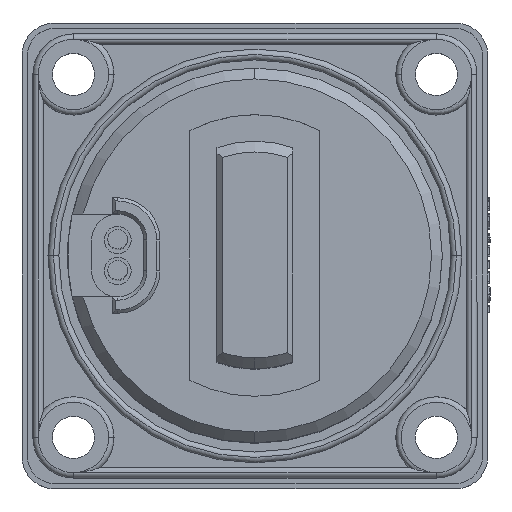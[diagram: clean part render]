
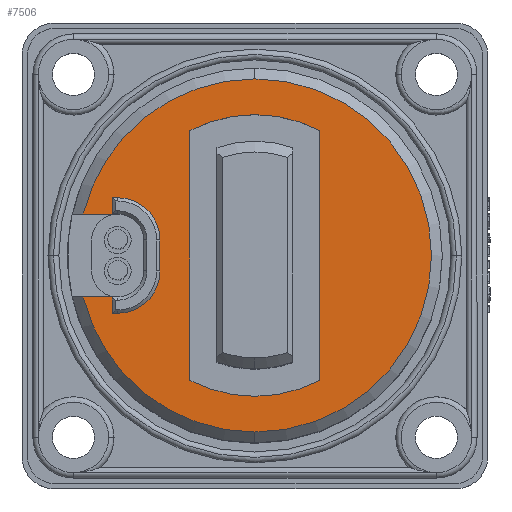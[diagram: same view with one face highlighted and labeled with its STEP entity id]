
A CAD part, top view. The second image highlights one B-rep face of the part: STEP entity #7506.
In plain terms, the highlighted planar face has unit normal (0, 0, 1).
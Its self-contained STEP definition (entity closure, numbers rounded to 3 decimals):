
#77 = VECTOR ( 'NONE', #9780, 1000. ) ;
#395 = LINE ( 'NONE', #5610, #1173 ) ;
#604 = CIRCLE ( 'NONE', #18663, 16.3 ) ;
#678 = AXIS2_PLACEMENT_3D ( 'NONE', #22096, #26998, #24616 ) ;
#744 = ORIENTED_EDGE ( 'NONE', *, *, #27256, .F. ) ;
#803 = VERTEX_POINT ( 'NONE', #21897 ) ;
#1005 = ORIENTED_EDGE ( 'NONE', *, *, #20629, .F. ) ;
#1045 = CARTESIAN_POINT ( 'NONE',  ( -6., -11.533, 28.5 ) ) ;
#1048 = VERTEX_POINT ( 'NONE', #28183 ) ;
#1173 = VECTOR ( 'NONE', #30520, 1000. ) ;
#2084 = DIRECTION ( 'NONE',  ( 0., 0., 1. ) ) ;
#2274 = CARTESIAN_POINT ( 'NONE',  ( -13.166, 3.829, 28.5 ) ) ;
#3578 = LINE ( 'NONE', #7272, #77 ) ;
#3926 = AXIS2_PLACEMENT_3D ( 'NONE', #26037, #11145, #5924 ) ;
#3991 = ORIENTED_EDGE ( 'NONE', *, *, #22801, .T. ) ;
#4023 = VECTOR ( 'NONE', #5887, 1000. ) ;
#4102 = VERTEX_POINT ( 'NONE', #22174 ) ;
#4359 = AXIS2_PLACEMENT_3D ( 'NONE', #19273, #2084, #27018 ) ;
#4570 = CIRCLE ( 'NONE', #13012, 13. ) ;
#4643 = ORIENTED_EDGE ( 'NONE', *, *, #23790, .F. ) ;
#5610 = CARTESIAN_POINT ( 'NONE',  ( 6., 11.533, 28.5 ) ) ;
#5874 = LINE ( 'NONE', #16425, #26105 ) ;
#5887 = DIRECTION ( 'NONE',  ( 1., 0., 0. ) ) ;
#5924 = DIRECTION ( 'NONE',  ( 0., -1., 0. ) ) ;
#6036 = ORIENTED_EDGE ( 'NONE', *, *, #23842, .F. ) ;
#6185 = CARTESIAN_POINT ( 'NONE',  ( -8.766, 1.429, 28.5 ) ) ;
#7163 = CARTESIAN_POINT ( 'NONE',  ( 0., 0., 28.5 ) ) ;
#7272 = CARTESIAN_POINT ( 'NONE',  ( -13.166, -3.829, 28.5 ) ) ;
#7409 = CARTESIAN_POINT ( 'NONE',  ( 0., 0., 28.5 ) ) ;
#7506 = ADVANCED_FACE ( 'NONE', ( #9081, #13740 ), #13123, .F. ) ;
#7600 = CARTESIAN_POINT ( 'NONE',  ( -13.166, 5.329, 28.5 ) ) ;
#7853 = CIRCLE ( 'NONE', #25863, 16.3 ) ;
#7907 = VERTEX_POINT ( 'NONE', #17890 ) ;
#7920 = DIRECTION ( 'NONE',  ( 0., 0., -1. ) ) ;
#7964 = ORIENTED_EDGE ( 'NONE', *, *, #30918, .F. ) ;
#7971 = EDGE_CURVE ( 'NONE', #11931, #23045, #395, .T. ) ;
#8131 = CARTESIAN_POINT ( 'NONE',  ( -12.666, 1.429, 28.5 ) ) ;
#8232 = ORIENTED_EDGE ( 'NONE', *, *, #16695, .F. ) ;
#8597 = EDGE_LOOP ( 'NONE', ( #18709, #744, #25769, #8232, #9136 ) ) ;
#8666 = VERTEX_POINT ( 'NONE', #28529 ) ;
#8919 = ORIENTED_EDGE ( 'NONE', *, *, #11975, .F. ) ;
#9081 = FACE_BOUND ( 'NONE', #8597, .T. ) ;
#9136 = ORIENTED_EDGE ( 'NONE', *, *, #27998, .F. ) ;
#9585 = CARTESIAN_POINT ( 'NONE',  ( -13.166, 5.329, 28.5 ) ) ;
#9692 = DIRECTION ( 'NONE',  ( 0., -1., 0. ) ) ;
#9743 = CIRCLE ( 'NONE', #26621, 13. ) ;
#9780 = DIRECTION ( 'NONE',  ( 0., -1., 0. ) ) ;
#9998 = DIRECTION ( 'NONE',  ( 0., 1., 0. ) ) ;
#10512 = DIRECTION ( 'NONE',  ( 0., 0., 1. ) ) ;
#10548 = CARTESIAN_POINT ( 'NONE',  ( -15.844, 3.829, 28.5 ) ) ;
#10718 = CARTESIAN_POINT ( 'NONE',  ( -12.666, -5.329, 28.5 ) ) ;
#11012 = LINE ( 'NONE', #20434, #4023 ) ;
#11145 = DIRECTION ( 'NONE',  ( 0., 0., 1. ) ) ;
#11221 = LINE ( 'NONE', #15812, #12387 ) ;
#11258 = ORIENTED_EDGE ( 'NONE', *, *, #24234, .F. ) ;
#11282 = AXIS2_PLACEMENT_3D ( 'NONE', #8131, #10512, #28358 ) ;
#11931 = VERTEX_POINT ( 'NONE', #15682 ) ;
#11975 = EDGE_CURVE ( 'NONE', #803, #21537, #19566, .T. ) ;
#12387 = VECTOR ( 'NONE', #18308, 1000. ) ;
#13012 = AXIS2_PLACEMENT_3D ( 'NONE', #7409, #17180, #24812 ) ;
#13123 = PLANE ( 'NONE',  #31685 ) ;
#13443 = LINE ( 'NONE', #30406, #31719 ) ;
#13640 = VERTEX_POINT ( 'NONE', #2274 ) ;
#13732 = CARTESIAN_POINT ( 'NONE',  ( -13.166, -5.329, 28.5 ) ) ;
#13740 = FACE_OUTER_BOUND ( 'NONE', #18798, .T. ) ;
#13965 = EDGE_CURVE ( 'NONE', #29695, #13640, #31800, .T. ) ;
#15078 = CARTESIAN_POINT ( 'NONE',  ( 0., 16.3, 28.5 ) ) ;
#15085 = CARTESIAN_POINT ( 'NONE',  ( -15.844, -3.829, 28.5 ) ) ;
#15115 = CARTESIAN_POINT ( 'NONE',  ( 7.45, 0., 28.5 ) ) ;
#15317 = ORIENTED_EDGE ( 'NONE', *, *, #20845, .T. ) ;
#15682 = CARTESIAN_POINT ( 'NONE',  ( 6., -11.533, 28.5 ) ) ;
#15812 = CARTESIAN_POINT ( 'NONE',  ( -8.766, -1.429, 28.5 ) ) ;
#16384 = VERTEX_POINT ( 'NONE', #1045 ) ;
#16415 = VERTEX_POINT ( 'NONE', #6185 ) ;
#16425 = CARTESIAN_POINT ( 'NONE',  ( -12.666, 5.329, 28.5 ) ) ;
#16458 = CIRCLE ( 'NONE', #4359, 3.9 ) ;
#16688 = CARTESIAN_POINT ( 'NONE',  ( -13.166, -3.829, 28.5 ) ) ;
#16695 = EDGE_CURVE ( 'NONE', #31891, #16384, #13443, .T. ) ;
#16743 = VERTEX_POINT ( 'NONE', #15085 ) ;
#16970 = ORIENTED_EDGE ( 'NONE', *, *, #20889, .F. ) ;
#17049 = CARTESIAN_POINT ( 'NONE',  ( -12.666, 3.829, 28.5 ) ) ;
#17180 = DIRECTION ( 'NONE',  ( 0., 0., 1. ) ) ;
#17443 = CIRCLE ( 'NONE', #678, 16.3 ) ;
#17890 = CARTESIAN_POINT ( 'NONE',  ( -8.766, -1.429, 28.5 ) ) ;
#18308 = DIRECTION ( 'NONE',  ( 0., 1., 0. ) ) ;
#18539 = CARTESIAN_POINT ( 'NONE',  ( 6., 11.533, 28.5 ) ) ;
#18623 = CARTESIAN_POINT ( 'NONE',  ( -6., 11.533, 28.5 ) ) ;
#18663 = AXIS2_PLACEMENT_3D ( 'NONE', #7163, #26956, #9998 ) ;
#18709 = ORIENTED_EDGE ( 'NONE', *, *, #7971, .F. ) ;
#18798 = EDGE_LOOP ( 'NONE', ( #28692, #7964, #1005, #26395, #6036, #8919, #4643, #11258, #3991, #15317, #25312, #16970 ) ) ;
#18832 = DIRECTION ( 'NONE',  ( 1., 0., 0. ) ) ;
#19273 = CARTESIAN_POINT ( 'NONE',  ( -12.666, -1.429, 28.5 ) ) ;
#19542 = DIRECTION ( 'NONE',  ( 0., 0., 1. ) ) ;
#19566 = LINE ( 'NONE', #13732, #25068 ) ;
#20434 = CARTESIAN_POINT ( 'NONE',  ( -12.666, -3.829, 28.5 ) ) ;
#20616 = VECTOR ( 'NONE', #27064, 1000. ) ;
#20629 = EDGE_CURVE ( 'NONE', #16415, #4102, #21509, .T. ) ;
#20845 = EDGE_CURVE ( 'NONE', #1048, #23736, #7853, .T. ) ;
#20889 = EDGE_CURVE ( 'NONE', #13640, #26884, #27286, .T. ) ;
#21306 = VERTEX_POINT ( 'NONE', #16688 ) ;
#21509 = CIRCLE ( 'NONE', #11282, 3.9 ) ;
#21537 = VERTEX_POINT ( 'NONE', #10718 ) ;
#21897 = CARTESIAN_POINT ( 'NONE',  ( -13.166, -5.329, 28.5 ) ) ;
#22096 = CARTESIAN_POINT ( 'NONE',  ( 0., 0., 28.5 ) ) ;
#22174 = CARTESIAN_POINT ( 'NONE',  ( -12.666, 5.329, 28.5 ) ) ;
#22216 = EDGE_CURVE ( 'NONE', #23736, #26884, #17443, .T. ) ;
#22801 = EDGE_CURVE ( 'NONE', #16743, #1048, #604, .T. ) ;
#23045 = VERTEX_POINT ( 'NONE', #18539 ) ;
#23736 = VERTEX_POINT ( 'NONE', #15078 ) ;
#23790 = EDGE_CURVE ( 'NONE', #21306, #803, #3578, .T. ) ;
#23842 = EDGE_CURVE ( 'NONE', #21537, #7907, #16458, .T. ) ;
#24234 = EDGE_CURVE ( 'NONE', #16743, #21306, #11012, .T. ) ;
#24616 = DIRECTION ( 'NONE',  ( 0., 1., 0. ) ) ;
#24673 = DIRECTION ( 'NONE',  ( 0., 1., 0. ) ) ;
#24696 = CARTESIAN_POINT ( 'NONE',  ( 0., 0., 28.5 ) ) ;
#24812 = DIRECTION ( 'NONE',  ( 0., -1., 0. ) ) ;
#25068 = VECTOR ( 'NONE', #18832, 1000. ) ;
#25214 = VECTOR ( 'NONE', #32027, 1000. ) ;
#25312 = ORIENTED_EDGE ( 'NONE', *, *, #22216, .T. ) ;
#25602 = CIRCLE ( 'NONE', #3926, 13. ) ;
#25769 = ORIENTED_EDGE ( 'NONE', *, *, #26088, .F. ) ;
#25863 = AXIS2_PLACEMENT_3D ( 'NONE', #27160, #26945, #24673 ) ;
#26037 = CARTESIAN_POINT ( 'NONE',  ( 0., 0., 28.5 ) ) ;
#26088 = EDGE_CURVE ( 'NONE', #16384, #8666, #4570, .T. ) ;
#26105 = VECTOR ( 'NONE', #31188, 1000. ) ;
#26395 = ORIENTED_EDGE ( 'NONE', *, *, #27943, .F. ) ;
#26621 = AXIS2_PLACEMENT_3D ( 'NONE', #24696, #19542, #9692 ) ;
#26884 = VERTEX_POINT ( 'NONE', #10548 ) ;
#26945 = DIRECTION ( 'NONE',  ( 0., 0., 1. ) ) ;
#26956 = DIRECTION ( 'NONE',  ( 0., 0., 1. ) ) ;
#26998 = DIRECTION ( 'NONE',  ( 0., 0., 1. ) ) ;
#27018 = DIRECTION ( 'NONE',  ( 0., -1., 0. ) ) ;
#27064 = DIRECTION ( 'NONE',  ( -1., 0., 0. ) ) ;
#27160 = CARTESIAN_POINT ( 'NONE',  ( 0., 0., 28.5 ) ) ;
#27256 = EDGE_CURVE ( 'NONE', #8666, #11931, #9743, .T. ) ;
#27286 = LINE ( 'NONE', #17049, #20616 ) ;
#27604 = DIRECTION ( 'NONE',  ( 0., 1., 0. ) ) ;
#27943 = EDGE_CURVE ( 'NONE', #7907, #16415, #11221, .T. ) ;
#27998 = EDGE_CURVE ( 'NONE', #23045, #31891, #25602, .T. ) ;
#28183 = CARTESIAN_POINT ( 'NONE',  ( 0., -16.3, 28.5 ) ) ;
#28358 = DIRECTION ( 'NONE',  ( 0., -1., 0. ) ) ;
#28529 = CARTESIAN_POINT ( 'NONE',  ( 0., -13., 28.5 ) ) ;
#28692 = ORIENTED_EDGE ( 'NONE', *, *, #13965, .F. ) ;
#29695 = VERTEX_POINT ( 'NONE', #7600 ) ;
#30094 = DIRECTION ( 'NONE',  ( 0., -1., 0. ) ) ;
#30406 = CARTESIAN_POINT ( 'NONE',  ( -6., 11.533, 28.5 ) ) ;
#30520 = DIRECTION ( 'NONE',  ( 0., 1., 0. ) ) ;
#30918 = EDGE_CURVE ( 'NONE', #4102, #29695, #5874, .T. ) ;
#31188 = DIRECTION ( 'NONE',  ( -1., 0., 0. ) ) ;
#31685 = AXIS2_PLACEMENT_3D ( 'NONE', #15115, #7920, #27604 ) ;
#31719 = VECTOR ( 'NONE', #30094, 1000. ) ;
#31800 = LINE ( 'NONE', #9585, #25214 ) ;
#31891 = VERTEX_POINT ( 'NONE', #18623 ) ;
#32027 = DIRECTION ( 'NONE',  ( 0., -1., 0. ) ) ;
